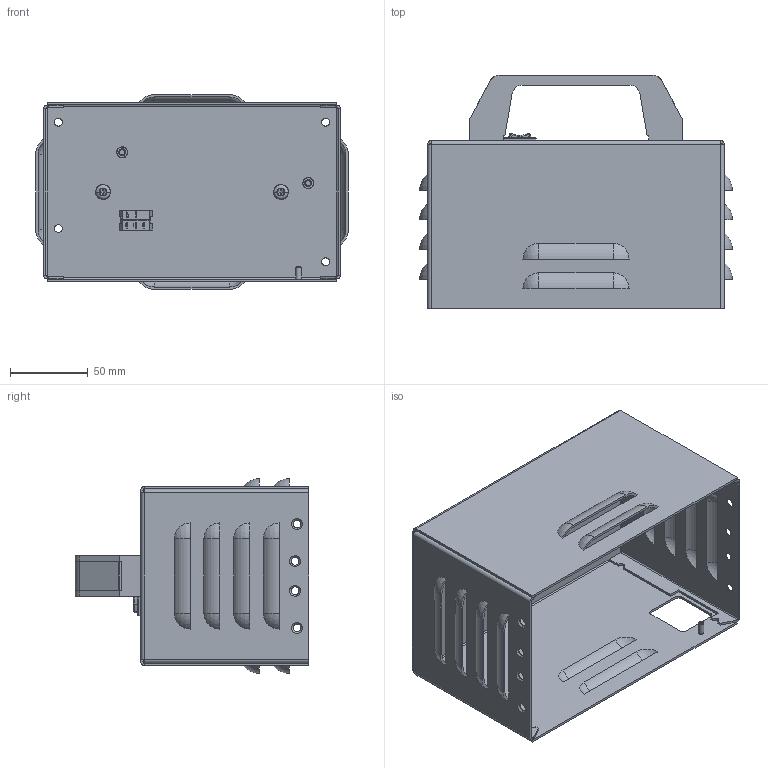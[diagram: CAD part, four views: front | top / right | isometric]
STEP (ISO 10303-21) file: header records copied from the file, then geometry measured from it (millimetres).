
FILE_DESCRIPTION (( 'STEP AP203' ), '1' );
FILE_NAME ('PortaRay Cover, Handle and Switch.STEP', '2024-03-18T19:42:23', ( '' ), ( '' ), 'SwSTEP 2.0', 'SolidWorks 2015', '' );
FILE_SCHEMA (( 'CONFIG_CONTROL_DESIGN' ));
Products named in the file (1): PortaRay Cover, Handle and Switch
Bounding box: 200.91 x 150.2 x 125.22 mm (x, y, z)
Volume: 183960.6 mm3; surface area: 212405.1 mm2
Topology: 3 solids, 4 shells, 1241 faces, 3404 edges, 2174 vertices
Faces by surface type: plane 506, cylinder 453, bspline 108, cone 104, sphere 50, torus 20
Entity records: 46599 total; most frequent: CARTESIAN_POINT 16691, ORIENTED_EDGE 6756, DIRECTION 5625, EDGE_CURVE 3378, VERTEX_POINT 2174, AXIS2_PLACEMENT_3D 1908, LINE 1809, VECTOR 1809
